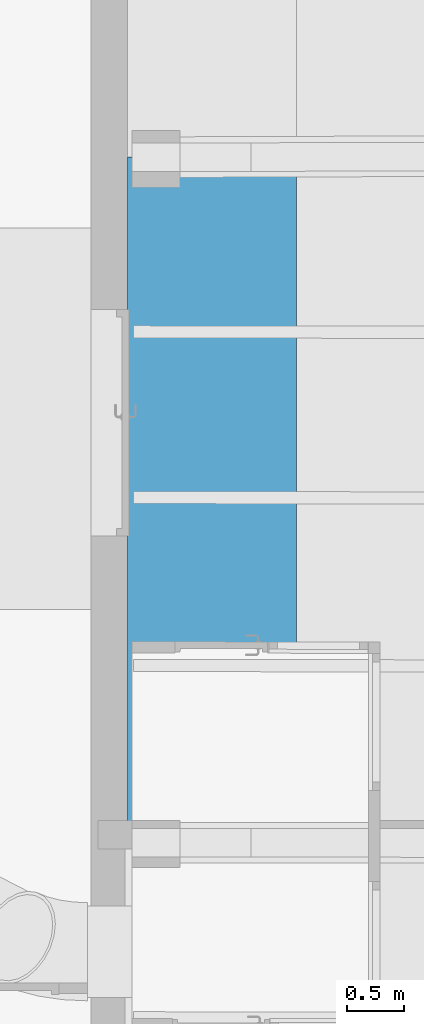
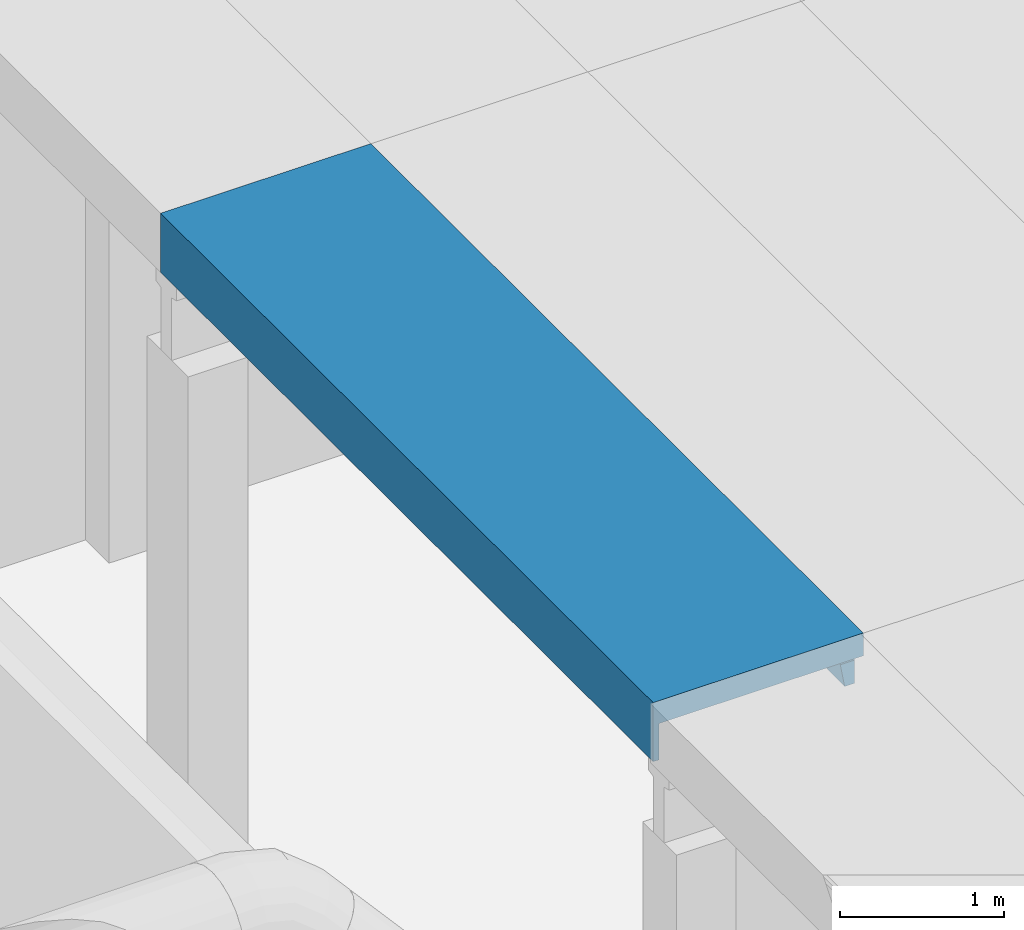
# One storey, part 46 of 301: 1 beam.
"""IFC2X3 building model written with IfcOpenShell, lengths in millimetres."""

from ifc_helpers import new_model, entity, si_unit, converted_unit, derived_unit, money_unit, direction, frame, origin_with_axes, place, context, subcontext, project, spatial, faceted_brep, material, type_object, element, save


model = new_model("IFC2X3")

# Units and contexts
model_context = context("Model", 3, precision=0.01, world=origin_with_axes(), true_north=direction((0.0, 1.0)))
body_context = subcontext(model_context, "Body", "Model", "MODEL_VIEW")
ifc_project = project(units=[si_unit("LENGTHUNIT", "METRE", prefix="MILLI"), si_unit("AREAUNIT", "SQUARE_METRE"), si_unit("VOLUMEUNIT", "CUBIC_METRE"), converted_unit("PLANEANGLEUNIT", "DEGREE", entity("IfcPlaneAngleMeasure", 0.0174532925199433), si_unit("PLANEANGLEUNIT", "RADIAN"), dimensions=[0, 0, 0, 0, 0, 0, 0]), money_unit("EUR"), converted_unit("TIMEUNIT", "Year", entity("IfcTimeMeasure", 31557600.0), si_unit("TIMEUNIT", "SECOND"), dimensions=[0, 0, 1, 0, 0, 0, 0]), si_unit("MASSUNIT", "GRAM", prefix="KILO"), si_unit("THERMODYNAMICTEMPERATUREUNIT", "DEGREE_CELSIUS"), si_unit("LUMINOUSINTENSITYUNIT", "LUMEN"), si_unit("ENERGYUNIT", "JOULE", prefix="MEGA"), derived_unit("THERMALCONDUCTANCEUNIT", [(si_unit("POWERUNIT", "WATT"), 1), (si_unit("LENGTHUNIT", "METRE"), -1), (si_unit("THERMODYNAMICTEMPERATUREUNIT", "KELVIN"), -1)]), derived_unit("SPECIFICHEATCAPACITYUNIT", [(si_unit("ENERGYUNIT", "JOULE"), 1), (si_unit("MASSUNIT", "GRAM", prefix="KILO"), -1), (si_unit("THERMODYNAMICTEMPERATUREUNIT", "KELVIN"), -1)]), derived_unit("MASSDENSITYUNIT", [(si_unit("MASSUNIT", "GRAM", prefix="KILO"), 1), (si_unit("VOLUMEUNIT", "CUBIC_METRE"), -1)])], contexts=[model_context])

# Site, building, storey
site_placement = place(None, frame((0.0, 0.0, 8650.0), z_axis=(0.0, 0.0, 1.0), x_axis=(1.0, 0.0, 0.0)))
site = spatial("IfcSite", under=ifc_project, at=site_placement, Name="43301:001:0844", CompositionType="ELEMENT")
building_placement = place(site_placement, origin_with_axes())
building = spatial("IfcBuilding", under=site, at=building_placement, Name="Kuressaare Ametikooli tuulikute mehaanikute õppekorpus", CompositionType="ELEMENT")
storey_placement = place(building_placement, origin_with_axes())
storey = spatial("IfcBuildingStorey", under=building, at=storey_placement, Name="1.korrus", CompositionType="ELEMENT", Elevation=0.0)

# Beam
ifc_material = material(Name="GENEERILINE - KONSTRUKTRIOON")
beam_type = type_object("IfcBeamType", Name="Precast Double Tee 2 1480 x 440", PredefinedType="NOTDEFINED")
beam_placement = place(storey_placement, frame((88958.75644683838, 56095.62793268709, 7100.0), z_axis=(0.0, 0.0, 1.0), x_axis=(-1.0, 0.0, 0.0)))
element("IfcBeam", 1, at=beam_placement, inside=storey, type_object=beam_type, material=ifc_material, context=body_context, shape_type="Brep", body=[
    faceted_brep([(576.4631020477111, 5828.333814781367, -169.8234995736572), (576.4631020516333, 4505.755869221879, -169.8234995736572), (576.4631020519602, 4398.727974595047, -169.8234995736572), (576.4631020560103, 3034.895812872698, -169.8234995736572), (576.4631020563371, 2927.867918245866, -169.8234995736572), (576.4631020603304, 1583.78355021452, -169.8234995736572), (576.463102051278, 1476.755655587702, -169.8234995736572), (576.4631020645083, 178.5403259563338, -169.8235046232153), (576.463102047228, 0.0, -169.8235046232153), (-579.2780844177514, 0.0, -169.8234995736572), (-579.2780844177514, 6006.106164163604, -169.8234995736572), (576.463102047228, 6006.106164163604, -169.8234995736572), (596.5276855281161, 5831.994083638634, -173.6800815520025), (596.5276855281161, 4500.050642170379, -173.6800815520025), (688.4463508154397, 4398.544472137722, -169.8234995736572), (688.6217326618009, 4505.572079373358, -169.8234995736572), (596.5276855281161, 4404.367473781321, -173.6800815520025), (596.5276855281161, 3029.190585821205, -173.6800815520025), (688.6217326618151, 3034.712023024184, -169.8234995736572), (688.4463508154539, 2927.684415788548, -169.8234995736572), (596.5276855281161, 1578.078323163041, -173.6800815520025), (596.5276855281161, 2933.507417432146, -173.6800815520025), (686.2438595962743, 1583.603656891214, -169.8234995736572), (686.0684777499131, 1476.576049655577, -169.8234995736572), (596.5276855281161, 1482.395154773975, -173.6800815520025), (596.5276855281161, 174.9466787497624, -173.6800815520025), (699.359812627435, 178.9828142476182, -169.8235046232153), (700.0042383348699, 0.0, -169.8235046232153), (700.0042383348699, 0.0, -440.0001340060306), (739.9999999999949, 0.0, -440.0001340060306), (739.9999999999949, 0.0, 0.0), (-739.9999999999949, 0.0, 0.0), (-739.9999999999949, 0.0, -169.8235046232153), (-582.3753363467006, 0.0, -169.8235046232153), (-581.9040335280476, 0.0, -169.7351493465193), (-581.9040335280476, 6006.106164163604, -169.7351493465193), (699.9935036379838, 6006.106164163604, -169.8234995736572), (-582.3753094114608, 6006.106164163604, -169.8234995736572), (-739.9999999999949, 6006.106164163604, -169.8234995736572), (-739.9999999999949, 6006.106164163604, 0.0), (739.9999999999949, 6006.106164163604, 0.0), (739.9999999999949, 6006.106164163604, -440.0001340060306), (699.9935036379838, 6006.106164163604, -440.0001340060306), (699.9438615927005, 5828.299340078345, -169.8234995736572), (613.4409409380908, 4492.921798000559, -184.1936973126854), (599.2910346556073, 4497.519604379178, -175.3978342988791), (608.8765119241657, 5839.287313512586, -181.3563575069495), (613.8801744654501, 5841.687775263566, -184.4667336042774), (613.8801744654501, 4492.856417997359, -184.4667336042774), (688.608297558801, 4497.373243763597, -175.3978342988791), (699.9469222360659, 5839.261887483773, -181.3563575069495), (599.2909140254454, 4406.889358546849, -175.3977593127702), (688.459785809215, 4406.743241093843, -175.3977593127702), (688.6008013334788, 4492.798636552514, -184.1936973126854), (688.5668156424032, 4472.058706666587, -271.7709778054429), (688.5012693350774, 4432.058760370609, -271.7709778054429), (688.4672820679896, 4411.317868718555, -184.1935020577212), (613.440626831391, 4411.440811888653, -184.1935020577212), (613.8801744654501, 4411.504800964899, -184.4667336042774), (613.8801744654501, 3021.996361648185, -184.4667336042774), (613.4409409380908, 3022.061741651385, -184.1936973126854), (599.2910346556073, 3026.659548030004, -175.3978342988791), (688.6082975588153, 3026.513187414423, -175.3978342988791), (688.600801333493, 3021.93858020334, -184.1936973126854), (688.5668156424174, 3001.198650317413, -271.7709778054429), (688.5012693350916, 2961.198704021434, -271.7709778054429), (688.4672820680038, 2940.457812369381, -184.1935020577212), (688.4597858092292, 2935.883184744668, -175.3977593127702), (599.2909140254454, 2936.029302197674, -175.3977593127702), (599.2910346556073, 1575.547285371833, -175.3978342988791), (686.2304244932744, 1575.404821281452, -175.3978342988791), (613.440626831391, 2940.580755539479, -184.1935020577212), (613.8801744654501, 2940.644744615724, -184.4667336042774), (613.8801744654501, 1570.884098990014, -184.4667336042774), (613.4409409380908, 1570.949478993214, -184.1936973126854), (686.0819127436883, 1484.774818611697, -175.3977593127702), (686.2229282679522, 1570.830214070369, -184.1936973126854), (686.1889425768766, 1550.090284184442, -271.7709778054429), (686.1233962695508, 1510.090337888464, -271.7709778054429), (686.089409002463, 1489.34944623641, -184.1935020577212), (599.2909140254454, 1484.917039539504, -175.3977593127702), (613.440626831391, 1489.468492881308, -184.1935020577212), (613.8801744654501, 1489.532481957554, -184.4667336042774), (613.8801744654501, 165.3105565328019, -184.4667336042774), (608.8765200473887, 167.6944112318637, -181.3563625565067), (699.3992829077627, 168.0203374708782, -181.3563625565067), (699.5133185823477, 136.348065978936, -222.3718133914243), (699.6054616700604, 110.7562421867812, -267.4324731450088), (699.6054635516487, 110.7557195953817, -440.0001340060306), (665.9999970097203, 110.6347234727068, -440.0001340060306), (665.9999970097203, 5896.536356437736, -440.0001340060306), (699.962910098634, 5896.526874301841, -440.0001340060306), (-739.9999999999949, 5828.701359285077, -169.8234995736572), (-739.9999999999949, 5839.663907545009, -181.3563575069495), (-739.9999999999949, 5871.336385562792, -222.3718083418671), (-739.9999999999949, 5896.928376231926, -267.4324680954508), (-739.9999999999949, 5896.928898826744, -440.0001340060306), (-739.9999999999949, 105.5724355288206, -440.0001340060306), (-739.9999999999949, 105.5729581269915, -267.4324731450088), (-739.9999999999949, 131.1651136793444, -222.3718133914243), (-739.9999999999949, 162.8377957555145, -181.3563625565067), (-739.9999999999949, 173.8004146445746, -169.8235046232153), (-739.9999999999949, 1512.42726908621, -271.7709778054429), (-739.9999999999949, 1552.427322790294, -271.7709778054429), (-739.9999999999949, 1573.167308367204, -184.1936973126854), (-739.9999999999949, 1577.741927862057, -175.3978342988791), (-739.9999999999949, 1585.940785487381, -169.8234995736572), (-739.9999999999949, 1478.912890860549, -169.8234995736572), (-739.9999999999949, 1487.111681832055, -175.3977593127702), (-739.9999999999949, 1491.686321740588, -184.1935020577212), (-739.9999999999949, 3003.539585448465, -271.7709778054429), (-739.9999999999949, 3024.279571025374, -184.1936973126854), (-739.9999999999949, 3028.854190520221, -175.3978342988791), (-739.9999999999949, 3037.053048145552, -169.8234995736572), (-739.9999999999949, 2930.02515351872, -169.8234995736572), (-739.9999999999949, 2938.223944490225, -175.3977593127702), (-739.9999999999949, 2942.798584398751, -184.1935020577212), (-739.9999999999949, 2963.539531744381, -271.7709778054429), (-739.9999999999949, 4495.139627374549, -184.1936973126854), (-739.9999999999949, 4499.714246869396, -175.3978342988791), (-739.9999999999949, 4507.913104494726, -169.8234995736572), (-739.9999999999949, 4400.885209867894, -169.8234995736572), (-739.9999999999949, 4409.0840008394, -175.3977593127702), (-739.9999999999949, 4413.658640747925, -184.1935020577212), (-739.9999999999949, 4434.399588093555, -271.7709778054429), (-739.9999999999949, 4474.399641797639, -271.7709778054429), (-582.3753363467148, 174.3679405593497, -169.8235046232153), (-582.375309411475, 4400.626916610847, -169.8234995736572), (-582.375309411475, 4507.654811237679, -169.8234995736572), (-598.9726949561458, 4503.105519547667, -172.9350162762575), (-598.9726949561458, 5831.619635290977, -172.9350162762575), (-582.375309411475, 5828.657351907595, -169.8234995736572), (-598.9726949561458, 171.3505181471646, -172.9350162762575), (-598.9726949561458, 1483.258308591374, -172.9350162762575), (-582.375309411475, 1478.654597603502, -169.8234995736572), (-582.375309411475, 1585.682492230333, -169.8234995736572), (-598.9726949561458, 1581.133200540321, -172.9350162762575), (-598.9726949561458, 2934.370571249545, -172.9350162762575), (-582.375309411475, 2929.766860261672, -169.8234995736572), (-582.375309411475, 3036.794754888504, -169.8234995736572), (-598.9726949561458, 3032.245463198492, -172.9350162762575), (-598.9726949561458, 4405.230627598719, -172.9350162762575), (699.9557649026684, 5870.934363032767, -222.3718083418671), (699.9629099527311, 5896.526351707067, -267.4324680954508), (632.2156676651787, 5870.953275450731, -222.3718083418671), (631.9059644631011, 5869.41279570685, -220.376794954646), (626.2185466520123, 5854.260316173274, -200.7524729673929), (626.2185466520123, 4488.979423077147, -200.7524729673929), (631.9059644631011, 4484.322686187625, -220.376794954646), (639.8843284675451, 4472.138480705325, -271.7709778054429), (639.8843284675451, 4432.138427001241, -271.7709778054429), (626.2185466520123, 4415.341529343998, -200.7524729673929), (631.9059644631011, 4419.979831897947, -220.376794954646), (626.2185466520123, 3018.119366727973, -200.7524729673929), (631.9059644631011, 3013.462629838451, -220.376794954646), (639.8843284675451, 3001.278424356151, -271.7709778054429), (639.8843284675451, 2961.278370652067, -271.7709778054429), (631.9059644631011, 2949.119775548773, -220.376794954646), (626.2185466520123, 2944.481472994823, -200.7524729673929), (626.2185466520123, 1567.007104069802, -200.7524729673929), (639.8843284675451, 1550.16616169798, -271.7709778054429), (631.9059644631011, 1562.350367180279, -220.376794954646), (639.8843284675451, 1510.166107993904, -271.7709778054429), (631.9059644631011, 1498.007512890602, -220.376794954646), (626.2185466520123, 1493.369210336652, -200.7524729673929), (626.2185466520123, 152.7789140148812, -200.7524729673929), (631.9059644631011, 137.6452264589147, -220.376794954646), (632.2156684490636, 136.1057615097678, -222.3718133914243), (639.2108248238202, 110.5387919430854, -267.4324731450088), (639.2108240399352, 5896.543313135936, -267.4324680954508), (-612.9440397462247, 5839.628434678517, -181.3563575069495), (-613.8457985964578, 5840.048414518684, -181.8998999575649), (-624.6465213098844, 5850.552407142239, -195.4985300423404), (-630.0119299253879, 5863.307991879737, -212.014908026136), (-631.8709051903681, 5871.30619690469, -222.3718083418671), (-639.9589092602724, 5896.900445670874, -267.4324680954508), (-670.9333333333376, 5896.909616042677, -440.0001340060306), (-670.9333333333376, 105.821109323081, -440.0001340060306), (-639.9589101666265, 105.9331550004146, -267.4324731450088), (-631.870906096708, 131.5544313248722, -222.3718133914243), (-630.0119299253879, 139.5588659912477, -212.014908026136), (-624.6465213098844, 152.3323530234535, -195.4985300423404), (-613.8457985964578, 162.8722857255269, -181.8998999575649), (-612.9440481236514, 163.2952593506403, -181.3563625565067), (-640.7376347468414, 1512.264611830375, -271.7709778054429), (-640.7376347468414, 1552.264665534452, -271.7709778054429), (-630.0119299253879, 1566.398477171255, -212.014908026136), (-624.6465213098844, 1570.301081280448, -195.4985300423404), (-615.6676489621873, 1572.963569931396, -184.1936973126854), (-613.8457985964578, 1574.153560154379, -181.8998999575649), (-603.058609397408, 1577.517527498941, -175.3978342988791), (-603.0584849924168, 1486.887281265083, -175.3977593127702), (-613.8457985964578, 1490.286702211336, -181.8998999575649), (-615.6674938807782, 1491.482583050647, -184.1935020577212), (-624.6465213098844, 1494.174663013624, -195.4985300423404), (-630.0119299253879, 1498.095023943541, -212.014908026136), (-624.6465213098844, 3021.413343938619, -195.4985300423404), (-615.6676489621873, 3024.075832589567, -184.1936973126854), (-640.7376347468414, 3003.376928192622, -271.7709778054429), (-630.0119299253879, 3017.510739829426, -212.014908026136), (-613.8457985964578, 3025.26582281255, -181.8998999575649), (-603.058609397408, 3028.629790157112, -175.3978342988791), (-603.058484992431, 2937.999543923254, -175.3977593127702), (-613.8457985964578, 2941.398964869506, -181.8998999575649), (-615.6674938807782, 2942.594845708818, -184.1935020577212), (-630.0119299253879, 2949.207286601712, -212.014908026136), (-640.7376347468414, 2963.376874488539, -271.7709778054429), (-624.6465213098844, 2945.286925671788, -195.4985300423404), (-603.058609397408, 4499.489846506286, -175.3978342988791), (-615.6676489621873, 4494.935888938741, -184.1936973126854), (-613.8457985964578, 4496.125879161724, -181.8998999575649), (-603.058484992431, 4408.859600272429, -175.3977593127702), (-615.6674938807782, 4413.454902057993, -184.1935020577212), (-613.8457985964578, 4412.259021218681, -181.8998999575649), (-640.7376347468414, 4434.236930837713, -271.7709778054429), (-624.6465213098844, 4416.146982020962, -195.4985300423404), (-630.0119299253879, 4420.067342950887, -212.014908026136), (-640.7376347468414, 4474.236984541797, -271.7709778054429), (-630.0119299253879, 4488.3707961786, -212.014908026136), (-624.6465213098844, 4492.273400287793, -195.4985300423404)], [[[0, 1, 2, 3, 4, 5, 6, 7, 8, 9, 10, 11]], [[12, 13, 1, 0]], [[14, 2, 1, 15]], [[3, 2, 16, 17]], [[18, 19, 4, 3]], [[20, 5, 4, 21]], [[5, 22, 23, 6]], [[24, 25, 7, 6]], [[26, 27, 8, 7]], [[27, 28, 29, 30, 31, 32, 33, 34, 9, 8]], [[9, 34, 35, 10]], [[36, 11, 10, 35, 37, 38, 39, 40, 41, 42]], [[0, 11, 36, 43]], [[44, 45, 13, 12, 46, 47, 48]], [[15, 1, 13, 45, 49]], [[0, 43, 50, 46, 12]], [[51, 16, 2, 14, 52]], [[15, 49, 53, 54, 55, 56, 52, 14]], [[51, 57, 58, 59, 60, 61, 17, 16]], [[62, 18, 3, 17, 61]], [[19, 18, 62, 63, 64, 65, 66, 67]], [[67, 68, 21, 4, 19]], [[69, 70, 22, 5, 20]], [[21, 68, 71, 72, 73, 74, 69, 20]], [[75, 23, 22, 70, 76, 77, 78, 79]], [[23, 75, 80, 24, 6]], [[25, 24, 80, 81, 82, 83, 84]], [[7, 25, 84, 85, 26]], [[27, 26, 85, 86, 87, 88, 28]], [[28, 88, 89, 90, 91, 42, 41, 29]], [[30, 29, 41, 40]], [[31, 30, 40, 39]], [[38, 92, 93, 94, 95, 96, 97, 98, 99, 100, 101, 32, 31, 39], [102, 103, 104, 105, 106, 107, 108, 109], [110, 111, 112, 113, 114, 115, 116, 117], [118, 119, 120, 121, 122, 123, 124, 125]], [[126, 33, 32, 101]], [[127, 128, 129, 130, 131, 37, 35, 34, 33, 126, 132, 133, 134, 135, 136, 137, 138, 139, 140, 141]], [[92, 38, 37, 131]], [[142, 50, 43, 36, 42, 91, 143]], [[49, 45, 44, 53]], [[142, 144, 145, 146, 47, 46, 50]], [[146, 147, 48, 47]], [[53, 44, 48, 147, 148, 149, 54]], [[56, 57, 51, 52]], [[54, 149, 150, 55]], [[151, 58, 57, 56, 55, 150, 152]], [[59, 58, 151, 153]], [[64, 63, 60, 59, 153, 154, 155]], [[63, 62, 61, 60]], [[65, 64, 155, 156]], [[157, 158, 72, 71, 66, 65, 156]], [[67, 66, 71, 68]], [[74, 76, 70, 69]], [[159, 73, 72, 158]], [[160, 77, 76, 74, 73, 159, 161]], [[162, 78, 77, 160]], [[162, 163, 164, 82, 81, 79, 78]], [[80, 75, 79, 81]], [[164, 165, 83, 82]], [[165, 166, 167, 86, 85, 84, 83]], [[86, 167, 168, 87]], [[87, 168, 89, 88]], [[150, 149, 148, 145, 144, 169, 90, 89, 168, 167, 166, 163, 162, 160, 161, 157, 156, 155, 154, 152]], [[90, 169, 143, 91]], [[92, 131, 130, 170, 93]], [[171, 172, 173, 174, 94, 93, 170]], [[95, 94, 174, 175]], [[96, 95, 175, 176]], [[96, 176, 177, 97]], [[178, 98, 97, 177]], [[179, 99, 98, 178]], [[179, 180, 181, 182, 183, 100, 99]], [[101, 100, 183, 132, 126]], [[102, 184, 185, 103]], [[186, 187, 188, 104, 103, 185]], [[188, 189, 190, 105, 104]], [[190, 136, 135, 106, 105]], [[106, 135, 134, 107]], [[134, 133, 191, 108, 107]], [[191, 192, 193, 109, 108]], [[194, 195, 184, 102, 109, 193]], [[196, 197, 111, 110, 198, 199]], [[200, 201, 112, 111, 197]], [[140, 139, 113, 112, 201]], [[139, 138, 114, 113]], [[137, 202, 115, 114, 138]], [[203, 204, 116, 115, 202]], [[205, 206, 117, 116, 204, 207]], [[206, 198, 110, 117]], [[208, 119, 118, 209, 210]], [[128, 120, 119, 208, 129]], [[127, 121, 120, 128]], [[211, 122, 121, 127, 141]], [[212, 123, 122, 211, 213]], [[214, 124, 123, 212, 215, 216]], [[217, 125, 124, 214]], [[209, 118, 125, 217, 218, 219]], [[129, 208, 210, 171, 170, 130]], [[183, 182, 192, 191, 133, 132]], [[189, 203, 202, 137, 136, 190]], [[213, 211, 141, 140, 201, 200]], [[169, 144, 142, 143]], [[145, 148, 147, 146]], [[153, 151, 152, 154]], [[161, 159, 158, 157]], [[163, 166, 165, 164]], [[210, 209, 219, 172, 171]], [[172, 219, 218, 173]], [[173, 218, 217, 214, 216, 199, 198, 206, 205, 186, 185, 184, 195, 180, 179, 178, 177, 176, 175, 174]], [[194, 181, 180, 195]], [[182, 181, 194, 193, 192]], [[187, 186, 205, 207]], [[187, 207, 204, 203, 189, 188]], [[215, 212, 213, 200, 197, 196]], [[199, 216, 215, 196]]]),
])

save(model, "model.ifc")
